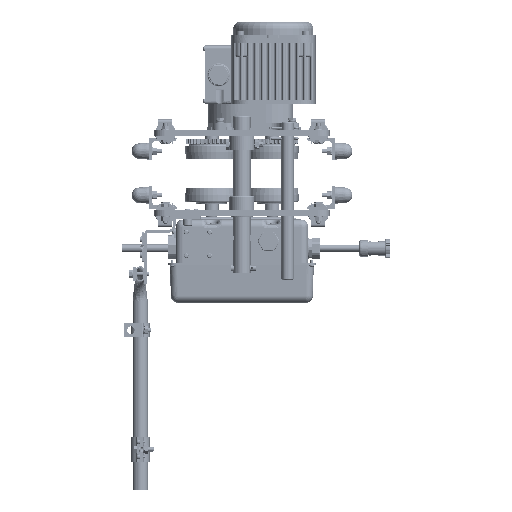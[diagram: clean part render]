
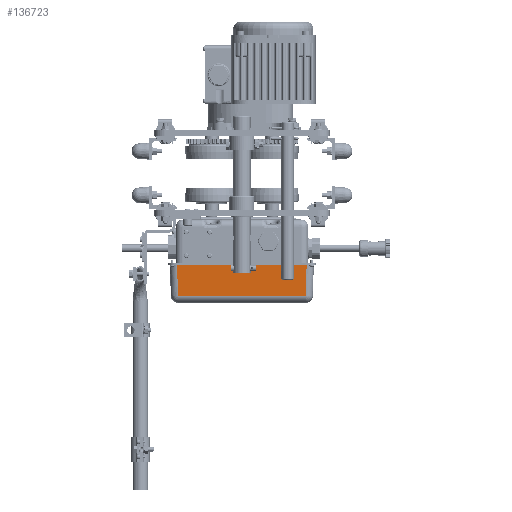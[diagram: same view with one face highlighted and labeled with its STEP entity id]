
A CAD part, front view. The second image highlights one B-rep face of the part: STEP entity #136723.
In plain terms, the highlighted planar face has unit normal (0, -0.999, -0.035) as drawn and (-0.035, -0.999, 0) by its records, which use the part's own axes.
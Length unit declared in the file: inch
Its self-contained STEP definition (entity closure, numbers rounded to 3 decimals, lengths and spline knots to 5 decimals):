
#2231 = DIRECTION ( 'NONE',  ( 0., 0., -1. ) ) ;
#4637 = DIRECTION ( 'NONE',  ( -0.035, -0.999, 0. ) ) ;
#11742 = EDGE_LOOP ( 'NONE', ( #12656, #136460, #151307, #85539 ) ) ;
#12656 = ORIENTED_EDGE ( 'NONE', *, *, #83745, .F. ) ;
#19199 = FACE_OUTER_BOUND ( 'NONE', #11742, .T. ) ;
#27897 = CARTESIAN_POINT ( 'NONE',  ( -0.03937, 0.3937, 9.83076 ) ) ;
#40214 = VERTEX_POINT ( 'NONE', #133838 ) ;
#42366 = EDGE_CURVE ( 'NONE', #40214, #114323, #65327, .T. ) ;
#43054 = CARTESIAN_POINT ( 'NONE',  ( -0.03937, 0.3937, 0.65822 ) ) ;
#45324 = VECTOR ( 'NONE', #95302, 39.37008 ) ;
#48654 = CARTESIAN_POINT ( 'NONE',  ( -0.03937, 0.3937, 10.47244 ) ) ;
#63939 = DIRECTION ( 'NONE',  ( 0.999, -0.035, 0. ) ) ;
#64938 = EDGE_CURVE ( 'NONE', #99340, #40214, #134441, .T. ) ;
#65327 = LINE ( 'NONE', #184993, #180564 ) ;
#67652 = LINE ( 'NONE', #71464, #79056 ) ;
#71464 = CARTESIAN_POINT ( 'NONE',  ( -2.69872, 0.48657, 9.7379 ) ) ;
#76885 = LINE ( 'NONE', #48654, #45324 ) ;
#79056 = VECTOR ( 'NONE', #99627, 39.37008 ) ;
#79467 = PLANE ( 'NONE',  #162267 ) ;
#80861 = DIRECTION ( 'NONE',  ( 0.999, -0.035, -0.035 ) ) ;
#83745 = EDGE_CURVE ( 'NONE', #85049, #114323, #76885, .T. ) ;
#85049 = VERTEX_POINT ( 'NONE', #27897 ) ;
#85539 = ORIENTED_EDGE ( 'NONE', *, *, #42366, .T. ) ;
#95302 = DIRECTION ( 'NONE',  ( 0., 0., -1. ) ) ;
#99340 = VERTEX_POINT ( 'NONE', #154904 ) ;
#99627 = DIRECTION ( 'NONE',  ( -0.999, 0.035, -0.035 ) ) ;
#114323 = VERTEX_POINT ( 'NONE', #43054 ) ;
#133838 = CARTESIAN_POINT ( 'NONE',  ( -2.22259, 0.46994, 0.73446 ) ) ;
#134441 = LINE ( 'NONE', #176404, #144331 ) ;
#136460 = ORIENTED_EDGE ( 'NONE', *, *, #149228, .T. ) ;
#136723 = ADVANCED_FACE ( 'NONE', ( #19199 ), #79467, .T. ) ;
#138740 = CARTESIAN_POINT ( 'NONE',  ( -1.0803, 0.43005, 10.47244 ) ) ;
#144331 = VECTOR ( 'NONE', #2231, 39.37008 ) ;
#149228 = EDGE_CURVE ( 'NONE', #85049, #99340, #67652, .T. ) ;
#151307 = ORIENTED_EDGE ( 'NONE', *, *, #64938, .T. ) ;
#154904 = CARTESIAN_POINT ( 'NONE',  ( -2.22259, 0.46994, 9.75453 ) ) ;
#162267 = AXIS2_PLACEMENT_3D ( 'NONE', #138740, #4637, #63939 ) ;
#176404 = CARTESIAN_POINT ( 'NONE',  ( -2.22259, 0.46994, 10.47244 ) ) ;
#180564 = VECTOR ( 'NONE', #80861, 39.37008 ) ;
#184993 = CARTESIAN_POINT ( 'NONE',  ( -1.42092, 0.44195, 0.70647 ) ) ;
